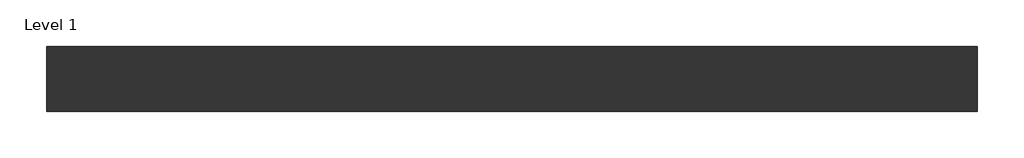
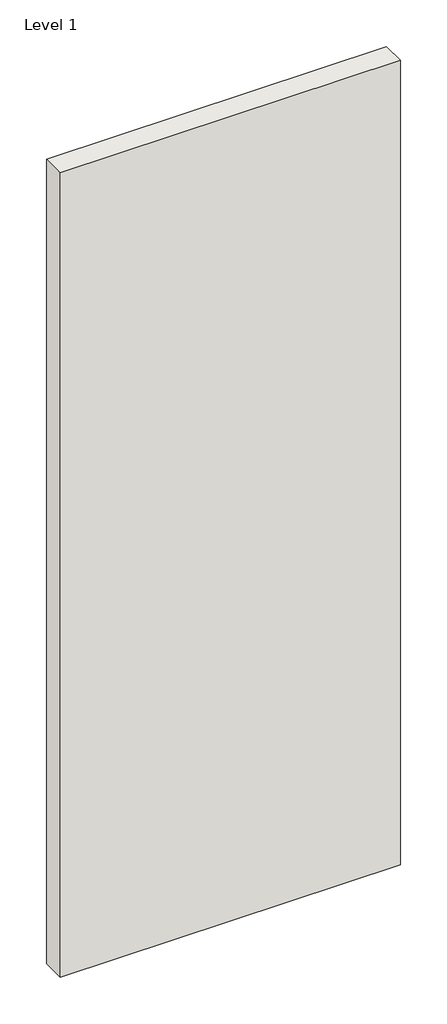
# One storey: 1 wall.
"""IFC4 building model written with IfcOpenShell, lengths in millimetres."""

import ifcopenshell
import ifcopenshell.guid

model = None  # the IFC model being written
_history = None  # IfcOwnerHistory: only IFC2X3 demands one
_inside = {}  # id of a spatial element -> (the spatial element, [elements in it])
_under = {}  # id of a project, library or spatial element -> (it, [spatial elements below it])
_declared = {}  # id of a project -> (the project, [libraries it declares])
_typed = {}  # id of a type object -> (the type object, [elements of that type])
_made_of = {}  # id of a material, layer set ... -> (it, [elements and type objects made of it])


def new_model(schema):
    """Start an empty IFC model of exactly this schema.

    Asked for "IFC4X3", IfcOpenShell would pick the latest addendum, in which some entities
    have other attributes; the version numbers below select the first issue.
    IFC2X3 requires an IfcOwnerHistory on every rooted entity: one is made here for all.
    """
    global model, _history
    if schema == "IFC4X3":
        model = ifcopenshell.file(schema_version=(4, 3, 0, 0))
    else:
        model = ifcopenshell.file(schema=schema)
    _inside.clear()
    _under.clear()
    _declared.clear()
    _typed.clear()
    _made_of.clear()
    _history = None
    if model.schema == "IFC2X3":
        org = make("IfcOrganization", Name="unknown")
        user = make(
            "IfcPersonAndOrganization",
            ThePerson=make("IfcPerson", FamilyName="unknown"),
            TheOrganization=org,
        )
        app = make(
            "IfcApplication",
            ApplicationDeveloper=org,
            Version="unknown",
            ApplicationFullName="unknown",
            ApplicationIdentifier="unknown",
        )
        _history = make(
            "IfcOwnerHistory",
            OwningUser=user,
            OwningApplication=app,
            ChangeAction="ADDED",
            CreationDate=0,
        )
    return model


def make(cls, **values):
    """One entity of the class cls with the attributes given. An attribute that is None is left unset."""
    return model.create_entity(
        cls, **{name: value for name, value in values.items() if value is not None}
    )


def rooted(cls, **values):
    """An entity with a GlobalId (a new one), such as an element, a storey or a relation."""
    return make(cls, GlobalId=ifcopenshell.guid.new(), OwnerHistory=_history, **values)


def si_unit(unit_type, name, prefix=None):
    """IfcSIUnit, for example si_unit("LENGTHUNIT", "METRE", prefix="MILLI")."""
    return make("IfcSIUnit", UnitType=unit_type, Prefix=prefix, Name=name)


def assignment(units):
    """IfcUnitAssignment: the units of a project."""
    return None if units is None else make("IfcUnitAssignment", Units=units)


def point(xyz):
    """IfcCartesianPoint."""
    return None if xyz is None else make("IfcCartesianPoint", Coordinates=xyz)


def direction(xyz):
    """IfcDirection."""
    return None if xyz is None else make("IfcDirection", DirectionRatios=xyz)


def frame(location, z_axis=None, x_axis=None):
    """IfcAxis2Placement3D, a coordinate frame: its origin and axes. An axis left out is left unset."""
    return make(
        "IfcAxis2Placement3D",
        Location=point(location),
        Axis=direction(z_axis),
        RefDirection=direction(x_axis),
    )


def origin():
    """The frame at (0, 0, 0) with its axes left unset."""
    return frame((0.0, 0.0, 0.0))


def origin_with_axes():
    """The frame at (0, 0, 0) with the z axis (0, 0, 1) and the x axis (1, 0, 0) written out."""
    return frame((0.0, 0.0, 0.0), z_axis=(0.0, 0.0, 1.0), x_axis=(1.0, 0.0, 0.0))


def place(relative_to, where):
    """IfcLocalPlacement: puts the frame where relative to a parent placement (None: the world)."""
    return make(
        "IfcLocalPlacement", PlacementRelTo=relative_to, RelativePlacement=where
    )


def context(
    kind, dimensions, precision=None, world=None, true_north=None, identifier=None
):
    """IfcGeometricRepresentationContext, for example the 3D "Model" context."""
    return make(
        "IfcGeometricRepresentationContext",
        ContextIdentifier=identifier,
        ContextType=kind,
        CoordinateSpaceDimension=dimensions,
        Precision=precision,
        WorldCoordinateSystem=world,
        TrueNorth=true_north,
    )


def project(units=None, contexts=None):
    """IfcProject with its units and contexts."""
    return rooted(
        "IfcProject",
        Name="project",
        RepresentationContexts=contexts,
        UnitsInContext=assignment(units),
    )


def spatial(cls, under=None, at=None, **own):
    """A site, building, storey or space (cls), placed at a placement, below another one or the project."""
    s = rooted(cls, ObjectPlacement=at, **own)
    if under is not None:
        _under.setdefault(under.id(), (under, []))[1].append(s)
    return s


def polyline(points):
    """IfcPolyline through the points."""
    return make("IfcPolyline", Points=[point(p) for p in points])


def outline(outer, holes=None, kind="AREA"):
    """IfcArbitraryClosedProfileDef: a profile drawn as a closed curve; with holes, ...WithVoids."""
    if holes is None:
        return make("IfcArbitraryClosedProfileDef", ProfileType=kind, OuterCurve=outer)
    return make(
        "IfcArbitraryProfileDefWithVoids",
        ProfileType=kind,
        OuterCurve=outer,
        InnerCurves=holes,
    )


def extrude(swept, where, along, depth):
    """IfcExtrudedAreaSolid: the profile swept, set in the frame where, extruded along a direction by depth."""
    return make(
        "IfcExtrudedAreaSolid",
        SweptArea=swept,
        Position=where,
        ExtrudedDirection=direction(along),
        Depth=depth,
    )


def shape(context_of_items, identifier, shape_type, items):
    """IfcShapeRepresentation: the items that make up one representation, for example the "Body"."""
    return make(
        "IfcShapeRepresentation",
        ContextOfItems=context_of_items,
        RepresentationIdentifier=identifier,
        RepresentationType=shape_type,
        Items=items,
    )


def made_of(thing, what):
    """Note that an element or type object is made of a material, layer set ...; save() writes the relation."""
    if what is not None:
        _made_of.setdefault(what.id(), (what, []))[1].append(thing)
    return thing


def element(
    cls,
    number,
    at=None,
    inside=None,
    cuts=None,
    type_object=None,
    material=None,
    context=None,
    identifier="Body",
    shape_type=None,
    held_by="IfcProductDefinitionShape",
    body=None,
    shapes=None,
    **own,
):
    """One element of the class cls, such as IfcWall. Its Tag is "e" and its number.

    at: its placement. inside: the storey or other place that contains it. cuts: it is an
    opening in that element (IfcRelVoidsElement). A single representation is given by context,
    identifier, shape_type and body (its items); several are given by shapes. held_by: the class
    of the entity that holds the representations. save() writes the other relations.
    """
    e = rooted(cls, Tag="e%d" % number, ObjectPlacement=at, **own)
    if body is not None:
        shapes = [shape(context, identifier, shape_type, body)]
    if shapes is not None:
        e.Representation = make(held_by, Representations=shapes)
    if inside is not None:
        _inside.setdefault(inside.id(), (inside, []))[1].append(e)
    if cuts is not None:
        rooted(
            "IfcRelVoidsElement", RelatingBuildingElement=cuts, RelatedOpeningElement=e
        )
    if type_object is not None:
        _typed.setdefault(type_object.id(), (type_object, []))[1].append(e)
    return made_of(e, material)


def aggregate(whole, parts):
    """IfcRelAggregates: a whole, such as a stair, and the parts it consists of."""
    return rooted("IfcRelAggregates", RelatingObject=whole, RelatedObjects=parts)


def save(model, path):
    """Write the relations noted so far, then the file.

    IfcRelAggregates (storeys below a building ...), IfcRelContainedInSpatialStructure (elements
    in a storey), IfcRelDefinesByType, IfcRelAssociatesMaterial and IfcRelDeclares: one each for
    every whole, place, type object, material and project.
    """
    for whole, parts in _under.values():
        aggregate(whole, parts)
    for where, things in _inside.values():
        rooted(
            "IfcRelContainedInSpatialStructure",
            RelatedElements=things,
            RelatingStructure=where,
        )
    for kind, things in _typed.values():
        rooted("IfcRelDefinesByType", RelatedObjects=things, RelatingType=kind)
    for what, things in _made_of.values():
        rooted("IfcRelAssociatesMaterial", RelatedObjects=things, RelatingMaterial=what)
    for by, libraries in _declared.values():
        rooted("IfcRelDeclares", RelatingContext=by, RelatedDefinitions=libraries)
    model.write(path)


model = new_model("IFC4")

# Units and contexts
model_context = context("Model", 3, world=origin())
ifc_project = project(units=[si_unit("LENGTHUNIT", "METRE", prefix="MILLI")], contexts=[model_context])

# Site, building, storey
site = spatial("IfcSite", under=ifc_project)
building = spatial("IfcBuilding", under=site)
storey = spatial("IfcBuildingStorey", under=building, Name="Level 1", Elevation=0.0)

# Wall
placement = place(None, origin())
element("IfcWall", 1, ObjectType="RIGIPS - 3.21.30 - EI 120, REI 120", at=placement, inside=storey, context=model_context, shape_type="SweptSolid", body=[
    extrude(outline(polyline([(1000.0, -35.0), (0.0, -35.0), (0.0, 35.0), (1000.0, 35.0), (1000.0, -35.0)])), origin_with_axes(), (0.0, 0.0, 1.0), 2500.0),
])

save(model, "model.ifc")
